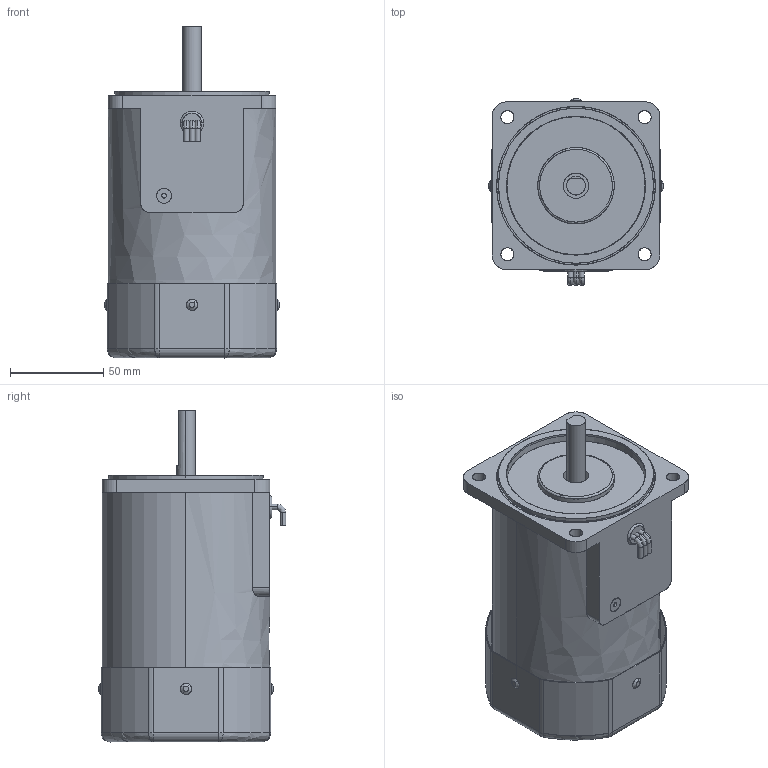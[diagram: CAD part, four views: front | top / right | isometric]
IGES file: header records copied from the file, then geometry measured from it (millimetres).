
Start section: SolidWorks IGES file using analytic representation for surfaces
Bounding box: 94 x 100.5 x 178 mm (x, y, z)
Surface area: 135903 mm2 (no closed solid volume)
Topology: 0 solids, 0 shells, 210 faces, 3790 edges, 3774 vertices
Faces by surface type: revolution 106, bspline 104
